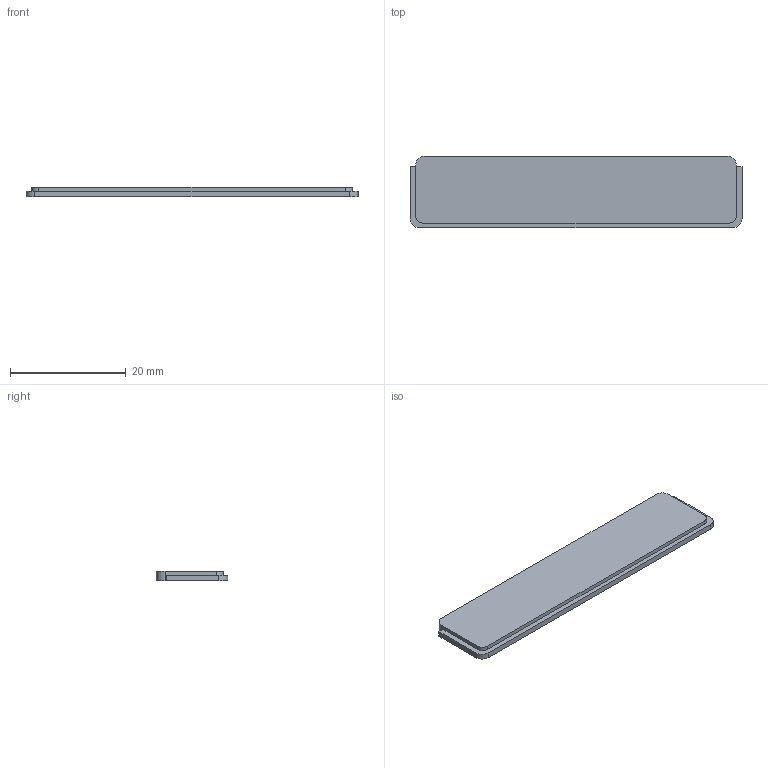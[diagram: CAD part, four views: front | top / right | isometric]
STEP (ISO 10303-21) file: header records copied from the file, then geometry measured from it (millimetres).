
FILE_DESCRIPTION (( 'STEP AP214' ), '1' );
FILE_NAME ('Tapa delantera PP51.STEP', '2018-07-09T16:19:48', ( 'aaa' ), ( '' ), 'SwSTEP 2.0', 'SolidWorks 2013', '' );
FILE_SCHEMA (( 'AUTOMOTIVE_DESIGN' ));
Length unit declared in the file: millimetre
Products named in the file (1): Tapa delantera PP51
Bounding box: 57.25 x 12.3 x 1.7 mm (x, y, z)
Volume: 1142.8 mm3; surface area: 1625.9 mm2
Topology: 1 solids, 1 shells, 18 faces, 48 edges, 32 vertices
Faces by surface type: plane 12, cylinder 6
Entity records: 598 total; most frequent: CARTESIAN_POINT 99, DIRECTION 98, ORIENTED_EDGE 96, EDGE_CURVE 48, VECTOR 36, LINE 36, VERTEX_POINT 32, AXIS2_PLACEMENT_3D 31
